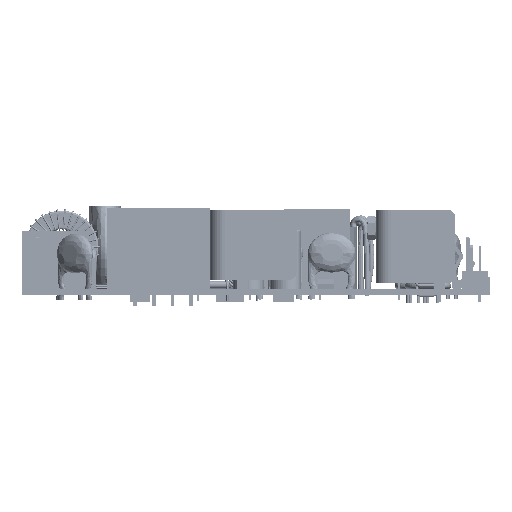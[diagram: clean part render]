
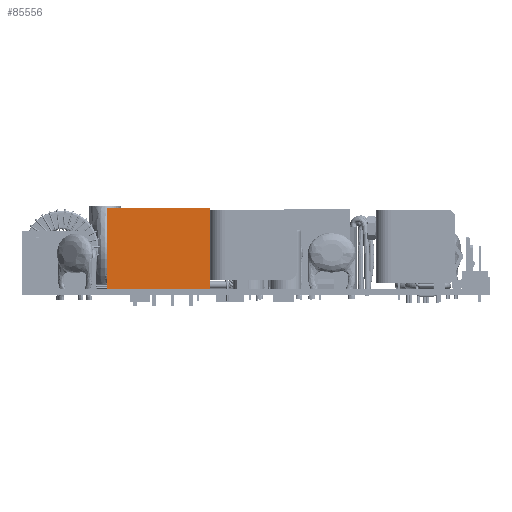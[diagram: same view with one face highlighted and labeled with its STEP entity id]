
A CAD part, front view. The second image highlights one B-rep face of the part: STEP entity #85556.
In plain terms, the highlighted planar face has unit normal (0, -1, 0).
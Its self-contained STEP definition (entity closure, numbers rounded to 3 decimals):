
#62493 = CARTESIAN_POINT ( 'NONE',  ( 51.015, 0.725, 1.6 ) ) ;
#62494 = DIRECTION ( 'NONE',  ( 1., 0., 0. ) ) ;
#62496 = VECTOR ( 'NONE', #62494, 1000. ) ;
#62498 = CARTESIAN_POINT ( 'NONE',  ( 23.015, 0.725, 1.6 ) ) ;
#62499 = LINE ( 'NONE', #62498, #62496 ) ;
#62616 = CARTESIAN_POINT ( 'NONE',  ( 23.015, 0.725, 1.6 ) ) ;
#63163 = CARTESIAN_POINT ( 'NONE',  ( 23.015, 0.725, 23.67 ) ) ;
#63164 = LINE ( 'NONE', #63163, #63261 ) ;
#63259 = CARTESIAN_POINT ( 'NONE',  ( 23.015, 0.725, 23.67 ) ) ;
#63260 = DIRECTION ( 'NONE',  ( 0., 0., -1. ) ) ;
#63261 = VECTOR ( 'NONE', #63260, 1000. ) ;
#63559 = FACE_OUTER_BOUND ( 'NONE', #85503, .T. ) ;
#63598 = DIRECTION ( 'NONE',  ( 1., 0., 0. ) ) ;
#63599 = VECTOR ( 'NONE', #63598, 1000. ) ;
#63601 = CARTESIAN_POINT ( 'NONE',  ( 23.015, 0.725, 23.67 ) ) ;
#63603 = LINE ( 'NONE', #63601, #63599 ) ;
#63611 = CARTESIAN_POINT ( 'NONE',  ( 51.015, 0.725, 23.67 ) ) ;
#63614 = DIRECTION ( 'NONE',  ( 0., 0., -1. ) ) ;
#63615 = VECTOR ( 'NONE', #63614, 1000. ) ;
#63617 = CARTESIAN_POINT ( 'NONE',  ( 51.015, 0.725, 23.67 ) ) ;
#63621 = DIRECTION ( 'NONE',  ( 0., 0., 1. ) ) ;
#63623 = DIRECTION ( 'NONE',  ( 0., 1., 0. ) ) ;
#63625 = CARTESIAN_POINT ( 'NONE',  ( 23.015, 0.725, 23.67 ) ) ;
#63627 = AXIS2_PLACEMENT_3D ( 'NONE', #63625, #63623, #63621 ) ;
#63629 = LINE ( 'NONE', #63617, #63615 ) ;
#63633 = PLANE ( 'NONE',  #63627 ) ;
#85300 = EDGE_CURVE ( 'NONE', #85329, #85301, #62499, .T. ) ;
#85301 = VERTEX_POINT ( 'NONE', #62493 ) ;
#85329 = VERTEX_POINT ( 'NONE', #62616 ) ;
#85499 = EDGE_CURVE ( 'NONE', #85500, #85329, #63164, .T. ) ;
#85500 = VERTEX_POINT ( 'NONE', #63259 ) ;
#85503 = EDGE_LOOP ( 'NONE', ( #85557, #85558, #85561, #85563 ) ) ;
#85556 = ADVANCED_FACE ( 'NONE', ( #63559 ), #63633, .F. ) ;
#85557 = ORIENTED_EDGE ( 'NONE', *, *, #85300, .T. ) ;
#85558 = ORIENTED_EDGE ( 'NONE', *, *, #85559, .F. ) ;
#85559 = EDGE_CURVE ( 'NONE', #85560, #85301, #63629, .T. ) ;
#85560 = VERTEX_POINT ( 'NONE', #63611 ) ;
#85561 = ORIENTED_EDGE ( 'NONE', *, *, #85562, .F. ) ;
#85562 = EDGE_CURVE ( 'NONE', #85500, #85560, #63603, .T. ) ;
#85563 = ORIENTED_EDGE ( 'NONE', *, *, #85499, .T. ) ;
